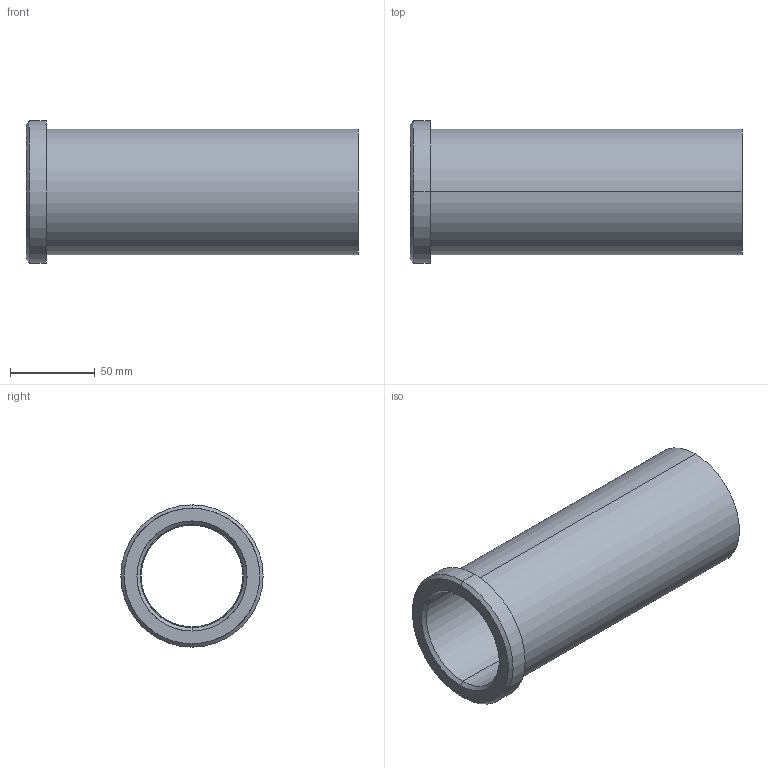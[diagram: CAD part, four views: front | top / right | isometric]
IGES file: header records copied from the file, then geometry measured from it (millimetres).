
Start section: START RECORD GO HERE.
Global section: file name: 353-60X196.igs; native system: DASSAULT SYSTEMES CATIA V5 R20 - www.3ds.com; preprocessor: CATIA Version 5 Release 20 ; author: Utente; organization: NB04-ASUS; date: 20210514.200138; units: millimetre
Bounding box: 196 x 84 x 84 mm (x, y, z)
Surface area: 87782.8 mm2 (no closed solid volume)
Topology: 0 solids, 0 shells, 18 faces, 116 edges, 116 vertices
Faces by surface type: revolution 14, plane 4
